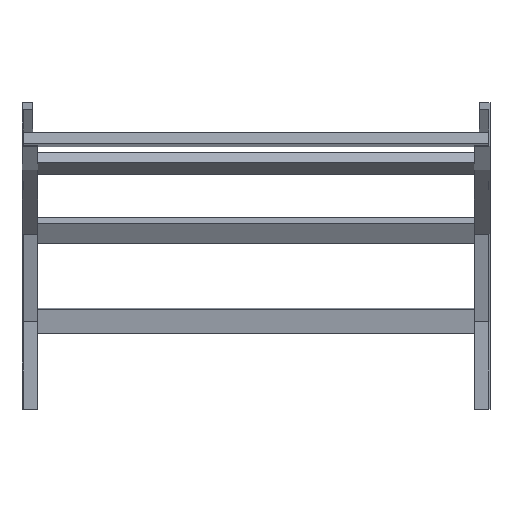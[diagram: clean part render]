
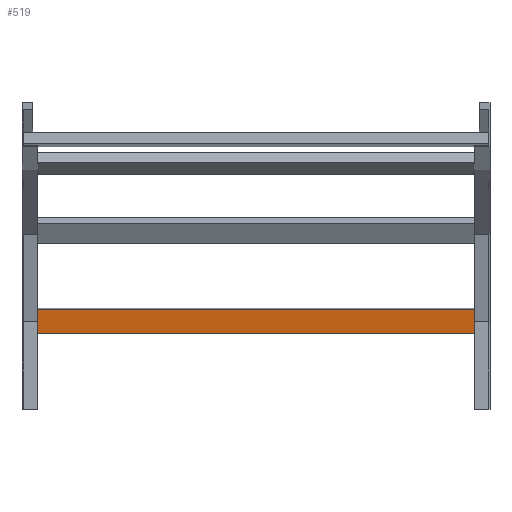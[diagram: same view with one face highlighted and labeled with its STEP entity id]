
A CAD part, front view. The second image highlights one B-rep face of the part: STEP entity #519.
In plain terms, the highlighted planar face has unit normal (0, -0.991, -0.131) as drawn and (0, -1, 0) by its records, which use the part's own axes.
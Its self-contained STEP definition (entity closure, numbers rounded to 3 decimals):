
#88 = CARTESIAN_POINT ( 'NONE',  ( -398., 0., -20.25 ) ) ;
#114 = DIRECTION ( 'NONE',  ( 0., 0., 1. ) ) ;
#130 = CARTESIAN_POINT ( 'NONE',  ( 398., 0., 20.25 ) ) ;
#279 = PLANE ( 'NONE',  #1194 ) ;
#280 = ORIENTED_EDGE ( 'NONE', *, *, #1838, .F. ) ;
#426 = DIRECTION ( 'NONE',  ( -1., 0., 0. ) ) ;
#506 = CARTESIAN_POINT ( 'NONE',  ( -398., 0., 20.25 ) ) ;
#519 = ADVANCED_FACE ( 'NONE', ( #689 ), #279, .F. ) ;
#628 = DIRECTION ( 'NONE',  ( -1., 0., 0. ) ) ;
#689 = FACE_OUTER_BOUND ( 'NONE', #1548, .T. ) ;
#691 = CARTESIAN_POINT ( 'NONE',  ( 398., 0., 20.25 ) ) ;
#781 = VERTEX_POINT ( 'NONE', #88 ) ;
#807 = LINE ( 'NONE', #506, #958 ) ;
#854 = LINE ( 'NONE', #130, #1813 ) ;
#884 = VERTEX_POINT ( 'NONE', #1309 ) ;
#941 = EDGE_CURVE ( 'NONE', #1439, #884, #854, .T. ) ;
#958 = VECTOR ( 'NONE', #1676, 1000. ) ;
#997 = DIRECTION ( 'NONE',  ( 0., 1., 0. ) ) ;
#1017 = CARTESIAN_POINT ( 'NONE',  ( 398., 0., -20.25 ) ) ;
#1108 = ORIENTED_EDGE ( 'NONE', *, *, #1493, .F. ) ;
#1130 = CARTESIAN_POINT ( 'NONE',  ( 398., 0., 20.25 ) ) ;
#1180 = LINE ( 'NONE', #1769, #1827 ) ;
#1194 = AXIS2_PLACEMENT_3D ( 'NONE', #1130, #997, #114 ) ;
#1276 = ORIENTED_EDGE ( 'NONE', *, *, #941, .T. ) ;
#1309 = CARTESIAN_POINT ( 'NONE',  ( -398., 0., 20.25 ) ) ;
#1332 = VECTOR ( 'NONE', #1362, 1000. ) ;
#1362 = DIRECTION ( 'NONE',  ( 0., 0., -1. ) ) ;
#1439 = VERTEX_POINT ( 'NONE', #691 ) ;
#1493 = EDGE_CURVE ( 'NONE', #1765, #781, #1180, .T. ) ;
#1548 = EDGE_LOOP ( 'NONE', ( #1744, #1108, #280, #1276 ) ) ;
#1640 = LINE ( 'NONE', #1798, #1332 ) ;
#1676 = DIRECTION ( 'NONE',  ( 0., 0., -1. ) ) ;
#1678 = EDGE_CURVE ( 'NONE', #884, #781, #807, .T. ) ;
#1744 = ORIENTED_EDGE ( 'NONE', *, *, #1678, .T. ) ;
#1765 = VERTEX_POINT ( 'NONE', #1017 ) ;
#1769 = CARTESIAN_POINT ( 'NONE',  ( 398., 0., -20.25 ) ) ;
#1798 = CARTESIAN_POINT ( 'NONE',  ( 398., 0., 20.25 ) ) ;
#1813 = VECTOR ( 'NONE', #426, 1000. ) ;
#1827 = VECTOR ( 'NONE', #628, 1000. ) ;
#1838 = EDGE_CURVE ( 'NONE', #1439, #1765, #1640, .T. ) ;
